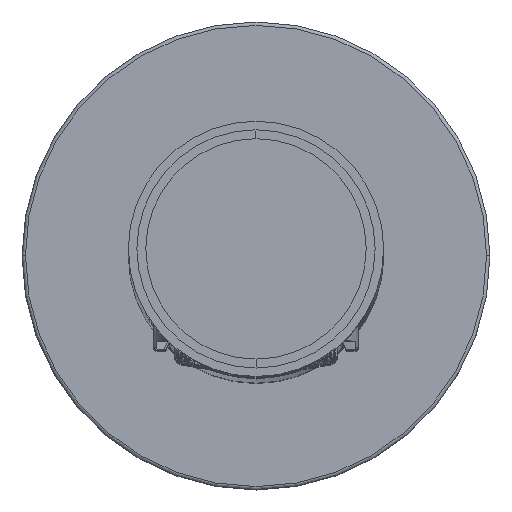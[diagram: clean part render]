
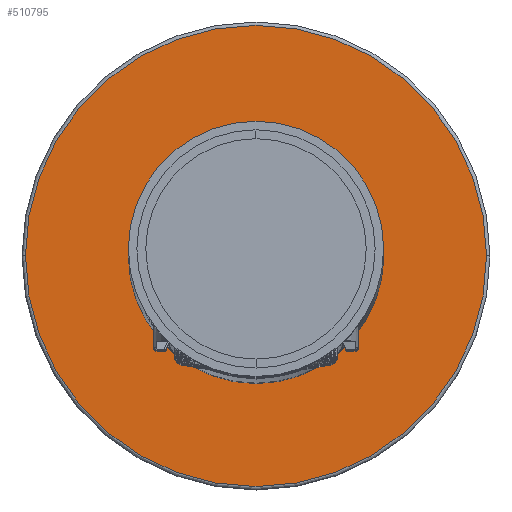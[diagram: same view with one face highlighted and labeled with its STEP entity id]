
A CAD part, top view. The second image highlights one B-rep face of the part: STEP entity #510795.
In plain terms, the highlighted planar face has unit normal (0, 0, 1).
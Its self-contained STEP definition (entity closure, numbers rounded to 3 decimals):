
#170255=CARTESIAN_POINT('',(0.,0.,-37.));
#170256=DIRECTION('',(0.,0.,1.));
#170257=DIRECTION('',(1.,0.,0.));
#170258=AXIS2_PLACEMENT_3D('',#170255,#170256,#170257);
#170265=CARTESIAN_POINT('',(0.,0.,-37.));
#170266=DIRECTION('',(0.,0.,-1.));
#170267=DIRECTION('',(-1.,0.,0.));
#170268=AXIS2_PLACEMENT_3D('',#170265,#170266,#170267);
#170270=CARTESIAN_POINT('',(0.,0.,-37.));
#170271=DIRECTION('',(0.,0.,-1.));
#170272=DIRECTION('',(1.,0.,0.));
#170273=AXIS2_PLACEMENT_3D('',#170270,#170271,#170272);
#173275=CARTESIAN_POINT('',(0.,0.,-37.));
#173276=DIRECTION('',(0.,0.,1.));
#173277=DIRECTION('',(-1.,0.,0.));
#173278=AXIS2_PLACEMENT_3D('',#173275,#173276,#173277);
#173511=CARTESIAN_POINT('',(-27.1,0.,-37.));
#173512=CARTESIAN_POINT('',(27.1,0.,-37.));
#173513=VERTEX_POINT('',#173511);
#173514=VERTEX_POINT('',#173512);
#174235=CARTESIAN_POINT('',(-14.8,0.,-37.));
#174236=CARTESIAN_POINT('',(14.8,0.,-37.));
#174237=VERTEX_POINT('',#174235);
#174238=VERTEX_POINT('',#174236);
#510779=CARTESIAN_POINT('',(0.,0.,-37.));
#510780=DIRECTION('',(0.,0.,1.));
#510781=DIRECTION('',(-1.,0.,0.));
#510782=AXIS2_PLACEMENT_3D('',#510779,#510780,#510781);
#510783=PLANE('',#510782);
#510785=ORIENTED_EDGE('',*,*,#510784,.T.);
#510787=ORIENTED_EDGE('',*,*,#510786,.T.);
#510788=EDGE_LOOP('',(#510785,#510787));
#510789=FACE_OUTER_BOUND('',#510788,.F.);
#510791=ORIENTED_EDGE('',*,*,#510790,.T.);
#510792=ORIENTED_EDGE('',*,*,#510769,.T.);
#510793=EDGE_LOOP('',(#510791,#510792));
#510794=FACE_BOUND('',#510793,.F.);
#510795=ADVANCED_FACE('',(#510789,#510794),#510783,.T.);
#170259=CIRCLE('',#170258,14.8);
#170269=CIRCLE('',#170268,27.1);
#170274=CIRCLE('',#170273,27.1);
#173279=CIRCLE('',#173278,14.8);
#510769=EDGE_CURVE('',#174238,#174237,#170259,.T.);
#510784=EDGE_CURVE('',#173513,#173514,#170269,.T.);
#510786=EDGE_CURVE('',#173514,#173513,#170274,.T.);
#510790=EDGE_CURVE('',#174237,#174238,#173279,.T.);
